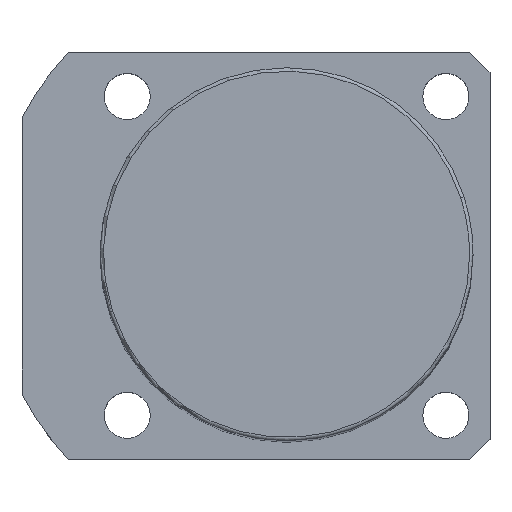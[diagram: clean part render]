
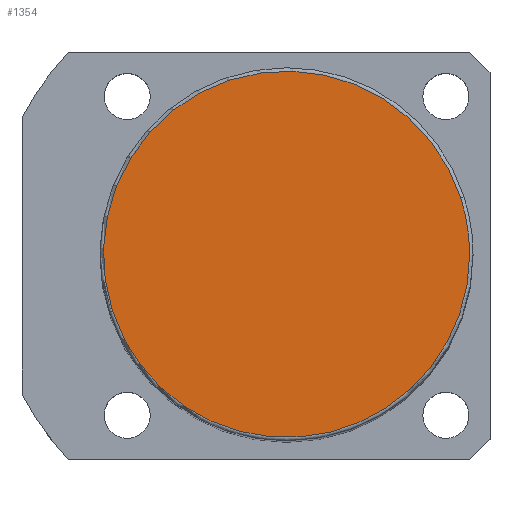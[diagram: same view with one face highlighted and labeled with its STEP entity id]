
A CAD part, top view. The second image highlights one B-rep face of the part: STEP entity #1354.
In plain terms, the highlighted planar face has unit normal (0, 0, 1).
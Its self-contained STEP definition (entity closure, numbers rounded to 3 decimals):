
#1287=CARTESIAN_POINT('',(25.679,8.343,146.0));
#1288=VERTEX_POINT('',#1287);
#1306=CARTESIAN_POINT('',(-25.679,-8.343,146.0));
#1307=VERTEX_POINT('',#1306);
#1315=CARTESIAN_POINT('',(0.0,0.0,146.0));
#1316=DIRECTION('',(0.0,0.0,1.0));
#1317=DIRECTION('',(1.0,0.0,0.0));
#1318=AXIS2_PLACEMENT_3D('',#1315,#1316,#1317);
#1319=CIRCLE('',#1318,27.0);
#1320=EDGE_CURVE('no 1846',#1288,#1307,#1319,.T.);
#1330=CARTESIAN_POINT('',(27.0,0.0,146.0));
#1331=VERTEX_POINT('',#1330);
#1332=CARTESIAN_POINT('',(0.0,0.0,146.0));
#1333=DIRECTION('',(0.0,0.0,1.0));
#1334=DIRECTION('',(1.0,0.0,0.0));
#1335=AXIS2_PLACEMENT_3D('',#1332,#1333,#1334);
#1336=CIRCLE('',#1335,27.0);
#1337=EDGE_CURVE('no 1855',#1331,#1288,#1336,.T.);
#1338=ORIENTED_EDGE('',*,*,#1337,.T.);
#1339=ORIENTED_EDGE('',*,*,#1320,.T.);
#1340=CARTESIAN_POINT('',(0.0,0.0,146.0));
#1341=DIRECTION('',(0.0,0.0,1.0));
#1342=DIRECTION('',(1.0,0.0,0.0));
#1343=AXIS2_PLACEMENT_3D('',#1340,#1341,#1342);
#1344=CIRCLE('',#1343,27.0);
#1345=EDGE_CURVE('no 1861',#1307,#1331,#1344,.T.);
#1346=ORIENTED_EDGE('',*,*,#1345,.T.);
#1347=EDGE_LOOP('',(#1338,#1339,#1346));
#1348=FACE_OUTER_BOUND('',#1347,.T.);
#1349=CARTESIAN_POINT('',(0.0,0.0,146.0));
#1350=DIRECTION('',(0.0,0.0,1.0));
#1351=DIRECTION('',(1.0,0.0,0.0));
#1352=AXIS2_PLACEMENT_3D('',#1349,#1350,#1351);
#1353=PLANE('',#1352);
#1354=ADVANCED_FACE('no 1848',(#1348),#1353,.T.);
